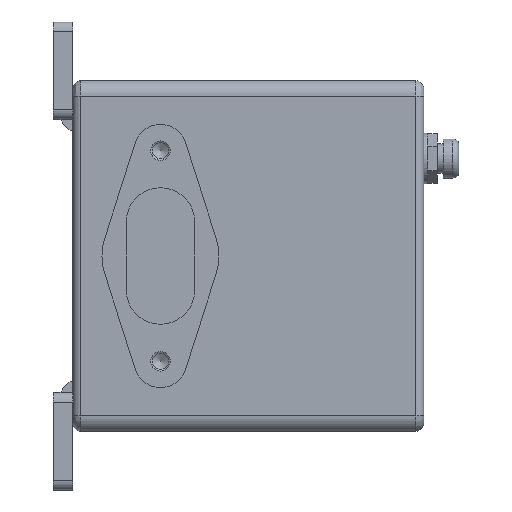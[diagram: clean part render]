
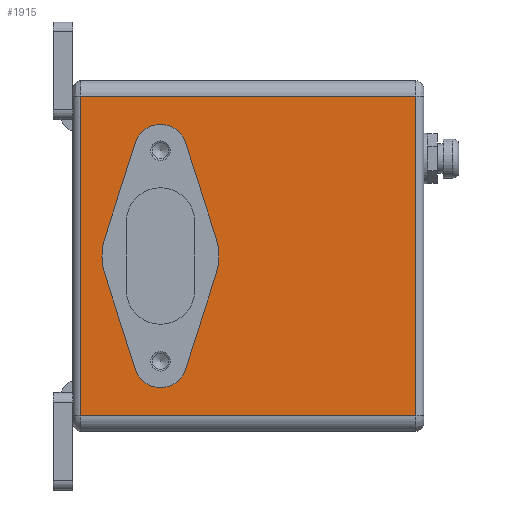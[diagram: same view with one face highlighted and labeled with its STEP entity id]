
A CAD part, front view. The second image highlights one B-rep face of the part: STEP entity #1915.
In plain terms, the highlighted planar face has unit normal (0, -1, 0).
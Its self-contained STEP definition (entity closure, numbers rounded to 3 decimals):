
#169=CARTESIAN_POINT('',(12.435,-4.,99.167));
#170=VERTEX_POINT('',#169);
#179=CARTESIAN_POINT('',(12.435,-4.,80.833));
#180=VERTEX_POINT('',#179);
#181=CARTESIAN_POINT('',(41.,-4.,90.0));
#182=DIRECTION('',(0.0,1.0,0.0));
#183=DIRECTION('',(0.0,0.0,1.0));
#184=AXIS2_PLACEMENT_3D('',#181,#182,#183);
#185=CIRCLE('',#184,30.0);
#186=EDGE_CURVE('',#180,#170,#185,.T.);
#211=CARTESIAN_POINT('',(69.565,-4.,99.167));
#212=VERTEX_POINT('',#211);
#230=CARTESIAN_POINT('',(69.565,-4.,80.833));
#231=VERTEX_POINT('',#230);
#238=CARTESIAN_POINT('',(41.,-4.,90.0));
#239=DIRECTION('',(0.0,1.0,0.0));
#240=DIRECTION('',(0.0,0.0,1.0));
#241=AXIS2_PLACEMENT_3D('',#238,#239,#240);
#242=CIRCLE('',#241,30.0);
#243=EDGE_CURVE('',#212,#231,#242,.T.);
#262=CARTESIAN_POINT('',(28.146,-4.,31.875));
#263=VERTEX_POINT('',#262);
#264=CARTESIAN_POINT('',(28.146,-4.,31.875));
#265=DIRECTION('',(-0.306,0.,0.952));
#266=VECTOR('',#265,51.417);
#267=LINE('',#264,#266);
#268=EDGE_CURVE('',#263,#180,#267,.T.);
#292=CARTESIAN_POINT('',(53.854,-4.,31.875));
#293=VERTEX_POINT('',#292);
#300=CARTESIAN_POINT('',(69.565,-4.,80.833));
#301=DIRECTION('',(-0.306,0.,-0.952));
#302=VECTOR('',#301,51.417);
#303=LINE('',#300,#302);
#304=EDGE_CURVE('',#231,#293,#303,.T.);
#316=CARTESIAN_POINT('',(41.,-4.,36.0));
#317=DIRECTION('',(0.0,1.0,0.0));
#318=DIRECTION('',(0.0,0.0,1.0));
#319=AXIS2_PLACEMENT_3D('',#316,#317,#318);
#320=CIRCLE('',#319,13.5);
#321=EDGE_CURVE('',#293,#263,#320,.T.);
#348=CARTESIAN_POINT('',(53.854,-4.,148.125));
#349=VERTEX_POINT('',#348);
#350=CARTESIAN_POINT('',(53.854,-4.,148.125));
#351=DIRECTION('',(0.306,0.,-0.952));
#352=VECTOR('',#351,51.417);
#353=LINE('',#350,#352);
#354=EDGE_CURVE('',#349,#212,#353,.T.);
#378=CARTESIAN_POINT('',(28.146,-4.,148.125));
#379=VERTEX_POINT('',#378);
#386=CARTESIAN_POINT('',(12.435,-4.,99.167));
#387=DIRECTION('',(0.306,0.,0.952));
#388=VECTOR('',#387,51.417);
#389=LINE('',#386,#388);
#390=EDGE_CURVE('',#170,#379,#389,.T.);
#410=CARTESIAN_POINT('',(41.0,-4.,144.0));
#411=DIRECTION('',(0.0,1.0,0.0));
#412=DIRECTION('',(0.0,0.0,1.0));
#413=AXIS2_PLACEMENT_3D('',#410,#411,#412);
#414=CIRCLE('',#413,13.5);
#415=EDGE_CURVE('',#379,#349,#414,.T.);
#751=CARTESIAN_POINT('',(0.,-4.,172.));
#752=VERTEX_POINT('',#751);
#785=CARTESIAN_POINT('',(0.,-4.,8.));
#786=VERTEX_POINT('',#785);
#794=CARTESIAN_POINT('',(0.,-4.,172.));
#795=DIRECTION('',(0.0,0.0,-1.0));
#796=VECTOR('',#795,164.);
#797=LINE('',#794,#796);
#798=EDGE_CURVE('',#752,#786,#797,.T.);
#1433=CARTESIAN_POINT('',(172.,-4.,172.0));
#1434=VERTEX_POINT('',#1433);
#1467=CARTESIAN_POINT('',(172.,-4.,8.));
#1468=VERTEX_POINT('',#1467);
#1485=CARTESIAN_POINT('',(172.,-4.,172.));
#1486=DIRECTION('',(0.0,0.0,-1.0));
#1487=VECTOR('',#1486,164.);
#1488=LINE('',#1485,#1487);
#1489=EDGE_CURVE('',#1434,#1468,#1488,.T.);
#1665=CARTESIAN_POINT('',(172.,-4.,8.));
#1666=DIRECTION('',(-1.0,0.0,0.0));
#1667=VECTOR('',#1666,172.);
#1668=LINE('',#1665,#1667);
#1669=EDGE_CURVE('',#1468,#786,#1668,.T.);
#1889=CARTESIAN_POINT('',(0.0,-4.0,4.0));
#1890=DIRECTION('',(0.0,-1.0,0.0));
#1891=DIRECTION('',(0.0,0.0,-1.0));
#1892=AXIS2_PLACEMENT_3D('',#1889,#1890,#1891);
#1893=PLANE('',#1892);
#1894=CARTESIAN_POINT('',(172.,-4.,172.0));
#1895=DIRECTION('',(-1.0,0.0,0.0));
#1896=VECTOR('',#1895,172.);
#1897=LINE('',#1894,#1896);
#1898=EDGE_CURVE('',#1434,#752,#1897,.T.);
#1899=ORIENTED_EDGE('',*,*,#1898,.T.);
#1900=ORIENTED_EDGE('',*,*,#798,.T.);
#1901=ORIENTED_EDGE('',*,*,#1669,.F.);
#1902=ORIENTED_EDGE('',*,*,#1489,.F.);
#1903=EDGE_LOOP('',(#1899,#1900,#1901,#1902));
#1904=FACE_OUTER_BOUND('',#1903,.T.);
#1905=ORIENTED_EDGE('',*,*,#243,.T.);
#1906=ORIENTED_EDGE('',*,*,#304,.T.);
#1907=ORIENTED_EDGE('',*,*,#321,.T.);
#1908=ORIENTED_EDGE('',*,*,#268,.T.);
#1909=ORIENTED_EDGE('',*,*,#186,.T.);
#1910=ORIENTED_EDGE('',*,*,#390,.T.);
#1911=ORIENTED_EDGE('',*,*,#415,.T.);
#1912=ORIENTED_EDGE('',*,*,#354,.T.);
#1913=EDGE_LOOP('',(#1905,#1906,#1907,#1908,#1909,#1910,#1911,#1912));
#1914=FACE_BOUND('',#1913,.T.);
#1915=ADVANCED_FACE('',(#1904,#1914),#1893,.T.);
